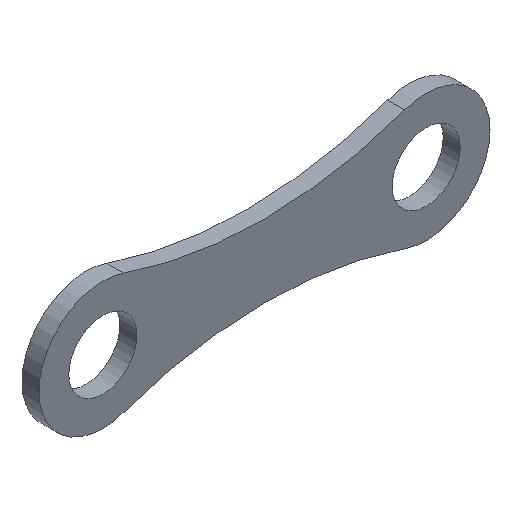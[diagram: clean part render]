
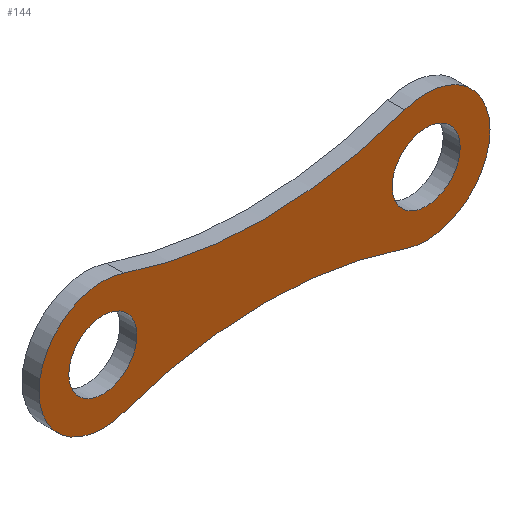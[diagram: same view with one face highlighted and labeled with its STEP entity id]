
A CAD part, isometric view. The second image highlights one B-rep face of the part: STEP entity #144.
In plain terms, the highlighted planar face has unit normal (0, -1, 0).
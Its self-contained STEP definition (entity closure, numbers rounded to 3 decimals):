
#17=FACE_BOUND('',#39,.T.);
#18=FACE_BOUND('',#40,.T.);
#20=PLANE('',#178);
#28=FACE_OUTER_BOUND('',#38,.T.);
#38=EDGE_LOOP('',(#125,#126,#127,#128));
#39=EDGE_LOOP('',(#129));
#40=EDGE_LOOP('',(#130));
#53=CIRCLE('',#160,25.);
#56=CIRCLE('',#164,3.75);
#57=CIRCLE('',#166,3.75);
#59=CIRCLE('',#169,25.);
#62=CIRCLE('',#173,2.);
#64=CIRCLE('',#176,2.);
#65=VERTEX_POINT('',#229);
#66=VERTEX_POINT('',#230);
#70=VERTEX_POINT('',#240);
#71=VERTEX_POINT('',#244);
#74=VERTEX_POINT('',#255);
#76=VERTEX_POINT('',#261);
#77=EDGE_CURVE('',#65,#66,#53,.F.);
#83=EDGE_CURVE('',#70,#66,#56,.T.);
#84=EDGE_CURVE('',#65,#71,#57,.T.);
#87=EDGE_CURVE('',#70,#71,#59,.F.);
#91=EDGE_CURVE('',#74,#74,#62,.T.);
#94=EDGE_CURVE('',#76,#76,#64,.T.);
#125=ORIENTED_EDGE('',*,*,#83,.F.);
#126=ORIENTED_EDGE('',*,*,#87,.T.);
#127=ORIENTED_EDGE('',*,*,#84,.F.);
#128=ORIENTED_EDGE('',*,*,#77,.T.);
#129=ORIENTED_EDGE('',*,*,#94,.F.);
#130=ORIENTED_EDGE('',*,*,#91,.F.);
#144=ADVANCED_FACE('',(#28,#17,#18),#20,.F.);
#160=AXIS2_PLACEMENT_3D('',#231,#183,#184);
#164=AXIS2_PLACEMENT_3D('',#242,#194,#195);
#166=AXIS2_PLACEMENT_3D('',#245,#198,#199);
#169=AXIS2_PLACEMENT_3D('',#250,#205,#206);
#173=AXIS2_PLACEMENT_3D('',#257,#214,#215);
#176=AXIS2_PLACEMENT_3D('',#263,#221,#222);
#178=AXIS2_PLACEMENT_3D('',#265,#225,#226);
#183=DIRECTION('center_axis',(0.,-1.,0.));
#184=DIRECTION('ref_axis',(-0.327,0.,-0.945));
#194=DIRECTION('center_axis',(0.,1.,0.));
#195=DIRECTION('ref_axis',(1.,0.,0.));
#198=DIRECTION('center_axis',(0.,1.,0.));
#199=DIRECTION('ref_axis',(1.,0.,0.));
#205=DIRECTION('center_axis',(0.,-1.,0.));
#206=DIRECTION('ref_axis',(0.327,0.,0.945));
#214=DIRECTION('center_axis',(0.,-1.,0.));
#215=DIRECTION('ref_axis',(1.,0.,0.));
#221=DIRECTION('center_axis',(0.,-1.,0.));
#222=DIRECTION('ref_axis',(1.,0.,0.));
#225=DIRECTION('center_axis',(0.,1.,0.));
#226=DIRECTION('ref_axis',(1.,0.,0.));
#229=CARTESIAN_POINT('',(-8.25,0.,-3.6));
#230=CARTESIAN_POINT('',(8.272,0.,-3.549));
#231=CARTESIAN_POINT('Origin',(0.085,0.,-27.17));
#240=CARTESIAN_POINT('',(8.25,0.,3.53));
#242=CARTESIAN_POINT('Origin',(9.5,0.,-0.005));
#244=CARTESIAN_POINT('',(-8.272,0.,3.478));
#245=CARTESIAN_POINT('Origin',(-9.5,0.,-0.065));
#250=CARTESIAN_POINT('Origin',(-0.085,0.,27.1));
#255=CARTESIAN_POINT('',(7.5,0.,-0.005));
#257=CARTESIAN_POINT('Origin',(9.5,0.,-0.005));
#261=CARTESIAN_POINT('',(-11.5,0.,-0.065));
#263=CARTESIAN_POINT('Origin',(-9.5,0.,-0.065));
#265=CARTESIAN_POINT('Origin',(0.,0.,-0.035));
